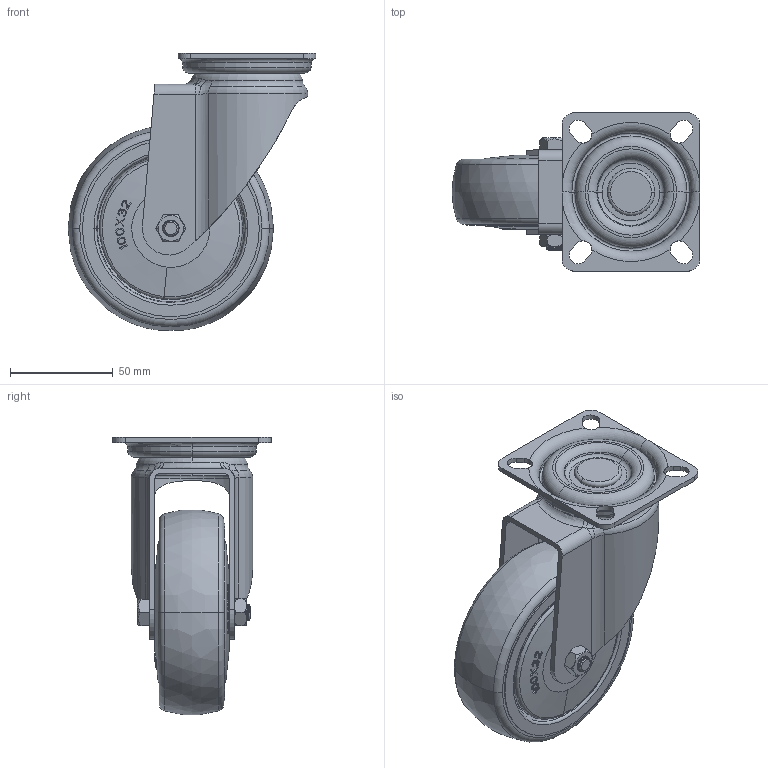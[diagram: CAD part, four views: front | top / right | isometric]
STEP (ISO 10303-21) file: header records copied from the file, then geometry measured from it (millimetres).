
FILE_DESCRIPTION((''),'2;1');
FILE_NAME('5103-100_ASM','2017-08-05T',('Administrator'),('SKYSAN_ID TECH CO,'),'PRO/ENGINEER BY PARAMETRIC TECHNOLOGY CORPORATION, 2010020','PRO/ENGINEER BY PARAMETRIC TECHNOLOGY CORPORATION, 2010020','');
FILE_SCHEMA(('CONFIG_CONTROL_DESIGN'));
Length unit declared in the file: millimetre
Products named in the file (17): BJ6___1; BJ5___1; 100_1_ASM; 100-HUO-DONG-ZHI-JIA_1; 100-TENTE-NEIXIN__1___1; 100-TENTE-ZHOUCHANG__1___1; 100-TENTE-BAOJAO__1___1; 100-TENTE-ZHUANGXIGUAI__1___1; 100-TEMTE-DANLEN__1___1_ASM; M8X60LS__1___1; M8LM__1___1; 100-_1_ASM; 150X32SBP___12_0_; 67X76-FK; PTD; DIANPIAN; 5103-100_ASM
Assembly tree (17 placements, depth 4):
  5103-100_ASM
    100_1_ASM
      BJ6___1
      BJ5___1
    100-HUO-DONG-ZHI-JIA_1
    100-_1_ASM
      100-TEMTE-DANLEN__1___1_ASM
        100-TENTE-NEIXIN__1___1
        100-TENTE-ZHOUCHANG__1___1
        100-TENTE-BAOJAO__1___1
        100-TENTE-ZHUANGXIGUAI__1___1  x2
      M8X60LS__1___1
      M8LM__1___1
    150X32SBP___12_0_
    67X76-FK
    PTD
    DIANPIAN
Bounding box: 120.43 x 77 x 134.71 mm (x, y, z)
Volume: 231959.3 mm3; surface area: 135500.7 mm2
Topology: 62 solids, 63 shells, 928 faces, 2455 edges, 1485 vertices
Faces by surface type: plane 481, cylinder 146, sphere 98, cone 88, torus 82, bspline 33
Entity records: 26565 total; most frequent: CARTESIAN_POINT 11095, ORIENTED_EDGE 3218, DIRECTION 2979, EDGE_CURVE 1609, AXIS2_PLACEMENT_3D 1242, VERTEX_POINT 1059, EDGE_LOOP 742, FACE_OUTER_BOUND 691
